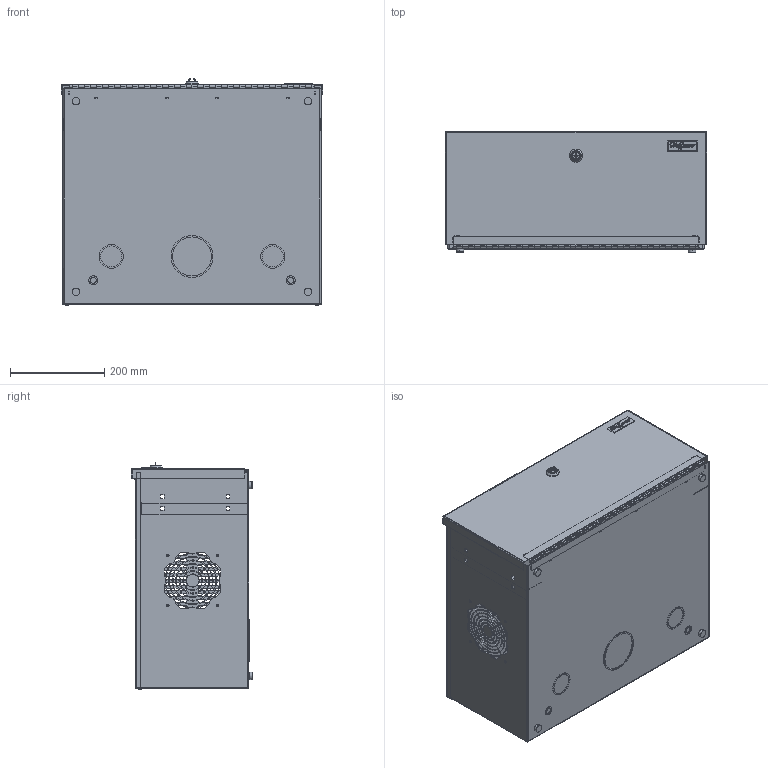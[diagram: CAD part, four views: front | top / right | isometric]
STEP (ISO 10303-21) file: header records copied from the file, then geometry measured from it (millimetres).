
FILE_DESCRIPTION (( 'STEP AP203' ), '1' );
FILE_NAME ('dvr4u.STEP', '2009-01-06T21:25:09', ( '' ), ( '' ), 'SwSTEP 2.0', 'SolidWorks 2007', '' );
FILE_SCHEMA (( 'CONFIG_CONTROL_DESIGN' ));
Length unit declared in the file: inch
Products named in the file (15): 87938287; 87938285_87938285_closed; 87938291; 64114001; 87938283_87938283; dvr4u; 87938277_87938277; 87938273_87938273_CLOSED; 87938289; 87938281_87938281; 87938279_87938279; 87938275; 87928600; 99409812_99409812; 87933389_Access Plus Front Door
Assembly tree (22 placements, depth 4):
  dvr4u
    87928600
    64114001  x4
    87938283_87938283  x2
    87938273_87938273_CLOSED
      87938279_87938279
      87938277_87938277
      87938285_87938285_closed
        87938287  x2
        87938289
    87938275
      87938291  x4
      87938281_87938281
    87933389_Access Plus Front Door
    99409812_99409812
Bounding box: 553.47 x 257.05 x 480.7 mm (x, y, z)
Volume: 1339381.7 mm3; surface area: 2209242.1 mm2
Topology: 23 solids, 23 shells, 2083 faces, 5638 edges, 3683 vertices
Faces by surface type: plane 1121, cylinder 710, bspline 208, cone 44
Entity records: 69641 total; most frequent: CARTESIAN_POINT 21897, ORIENTED_EDGE 9830, DIRECTION 9033, EDGE_CURVE 4915, VERTEX_POINT 3209, VECTOR 3069, LINE 3069, AXIS2_PLACEMENT_3D 2982
